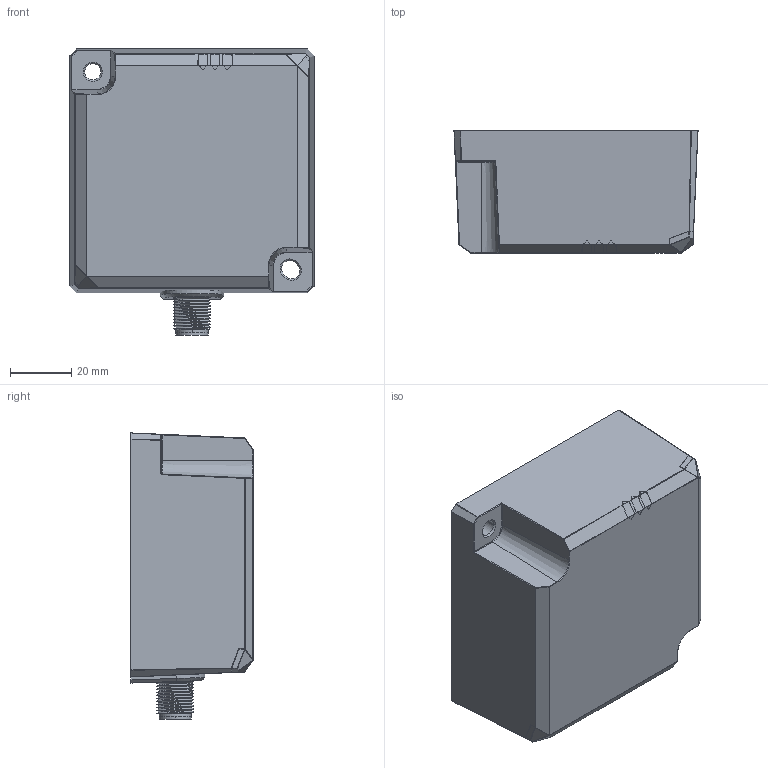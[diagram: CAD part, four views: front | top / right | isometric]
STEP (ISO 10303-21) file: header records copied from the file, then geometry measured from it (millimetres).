
FILE_DESCRIPTION((''),'2;1');
FILE_NAME('Q80-V01_ASM_49_ASM','2022-09-07T',('HIAPAD'),(''),'PRO/ENGINEER BY PARAMETRIC TECHNOLOGY CORPORATION, 2008310','PRO/ENGINEER BY PARAMETRIC TECHNOLOGY CORPORATION, 2008310','');
FILE_SCHEMA(('CONFIG_CONTROL_DESIGN'));
Length unit declared in the file: millimetre
Products named in the file (10): TOP-SHELL-Q80_9_34; H04A01_11_1_1_1_1; TL_7_1_1_1_1; QW-SHELL-PIN_1_1_1_1_1; 5P_ASM_1_ASM_1_ASM_1_ASM_1_ASM; _X2_5B9E4F53_X0_1-57_12_4_1_1; _X2_5B9E4F53_X0_1-58_6_3_1_1; MANIFOLD_SOLID_BREP_24344_2_1_1; ZHISHIDENG-LENS_1; Q80-V01_ASM_49_ASM
Assembly tree (15 placements, depth 3):
  Q80-V01_ASM_49_ASM
    TOP-SHELL-Q80_9_34
    5P_ASM_1_ASM_1_ASM_1_ASM_1_ASM
      H04A01_11_1_1_1_1
      TL_7_1_1_1_1  x5
      QW-SHELL-PIN_1_1_1_1_1
    _X2_5B9E4F53_X0_1-57_12_4_1_1
    _X2_5B9E4F53_X0_1-58_6_3_1_1
    MANIFOLD_SOLID_BREP_24344_2_1_1  x3
    ZHISHIDENG-LENS_1
Bounding box: 80 x 40 x 93.8 mm (x, y, z)
Volume: 213998.2 mm3; surface area: 52611.3 mm2
Topology: 14 solids, 16 shells, 847 faces, 2278 edges, 1450 vertices
Faces by surface type: plane 471, cylinder 248, bspline 64, cone 38, sphere 18, torus 8
Entity records: 29691 total; most frequent: CARTESIAN_POINT 11008, ORIENTED_EDGE 4088, DIRECTION 3475, EDGE_CURVE 2044, VECTOR 1397, LINE 1397, VERTEX_POINT 1318, AXIS2_PLACEMENT_3D 1039
